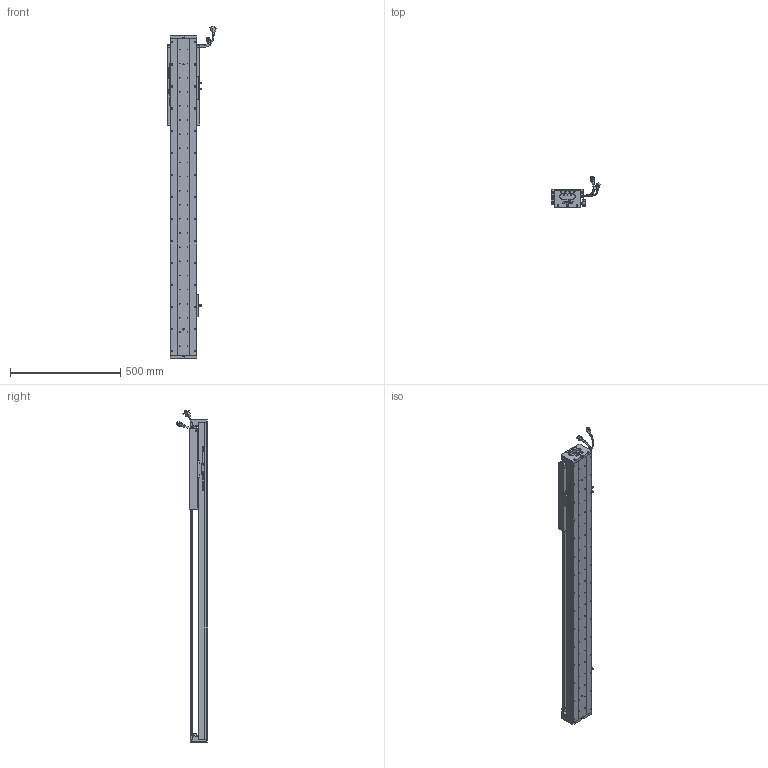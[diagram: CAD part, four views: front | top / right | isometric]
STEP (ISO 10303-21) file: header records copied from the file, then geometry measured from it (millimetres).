
FILE_DESCRIPTION (( 'STEP AP203' ), '1' );
FILE_NAME ('Z5-RY120D-1-L500-B-K.SLDASM_1000.step', '2021-05-17T06:22:12', ( '盈信电脑' ), ( '东莞市道滘镇水果街19号' ), 'SwSTEP 2.0', 'SolidWorks 2016', '' );
FILE_SCHEMA (( 'CONFIG_CONTROL_DESIGN' ));
Length unit declared in the file: millimetre
Products named in the file (37): Z5-RY120-500-倰第菁釱_1000; SCREW-M1.7-1; SCREW-M1.6-2; RY100FB-遵嫖萇覜茼え; SCREW-M1.7; HARNESS; 672嫖萇羲壽假蚾釱; Z5-RY120-L500詩湍100mm遵_1000; 080黍杅芛假蚾釱21遴; SEAL-Part-1; SCALE-Part-2; PSLH080_PSLF2; Z5-RY120D-1-L500-B-K.SLDASM_1000; HARNESS-Part-2; 120-Z-臏賑輸盄裔(21遴); Z-RY120D詩湍奻揤裔; SCREW-M1.6; Z-RY120D詩湍狟揤裔; HARNESS-Part-1; COVER-Part-1; SCREW-M1.6-1; Z-120詩湍傷裔啣; SCREW-M1.6-3; PBU_SHEET; LABEL; 140蚥薯蝶輸; Z5-RY120铝滑块（21款）; 140雄赽晤鎢ん堤盄; COVER; SCALE-Part-1; LABEL-Part-1; SCALE; HOLDER0; 榋妏寠巭燃_暯_M2_2; SHIELDPLATE; SEAL; 覜茼ん672
Assembly tree (43 placements, depth 4):
  Z5-RY120D-1-L500-B-K.SLDASM_1000
    Z5-RY120-500-倰第菁釱_1000
    覜茼ん672  x3
    672嫖萇羲壽假蚾釱  x2
    Z5-RY120铝滑块（21款）
    PSLH080_PSLF2
      SCALE
        SCALE-Part-1
        SCALE-Part-2
      HARNESS
        HARNESS-Part-1
        HARNESS-Part-2
      LABEL
        LABEL-Part-1
      COVER
        COVER-Part-1
      SEAL
        SEAL-Part-1
      榋妏寠巭燃_暯_M2_2
      SHIELDPLATE
      SCREW-M1.7
      SCREW-M1.7-1
      PBU_SHEET
      SCREW-M1.6
      SCREW-M1.6-1
      SCREW-M1.6-2
      SCREW-M1.6-3
      HOLDER0
    080黍杅芛假蚾釱21遴
    120-Z-臏賑輸盄裔(21遴)
    140雄赽晤鎢ん堤盄
    140蚥薯蝶輸  x2
    RY100FB-遵嫖萇覜茼え
    Z-120詩湍傷裔啣  x2
    Z-RY120D詩湍奻揤裔  x2
    Z-RY120D詩湍狟揤裔  x2
    Z5-RY120-L500詩湍100mm遵_1000
Bounding box: 222.88 x 140.94 x 1503.99 mm (x, y, z)
Volume: 4262665.4 mm3; surface area: 1389435 mm2
Topology: 38 solids, 38 shells, 3121 faces, 8575 edges, 5420 vertices
Faces by surface type: cylinder 1523, plane 1170, cone 306, torus 69, bspline 53
Entity records: 97648 total; most frequent: CARTESIAN_POINT 27333, ORIENTED_EDGE 14062, DIRECTION 13533, EDGE_CURVE 7031, AXIS2_PLACEMENT_3D 4990, VERTEX_POINT 4540, VECTOR 3553, LINE 3553
